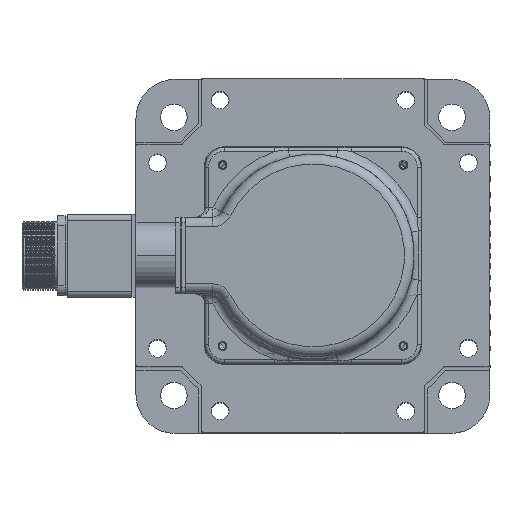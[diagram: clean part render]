
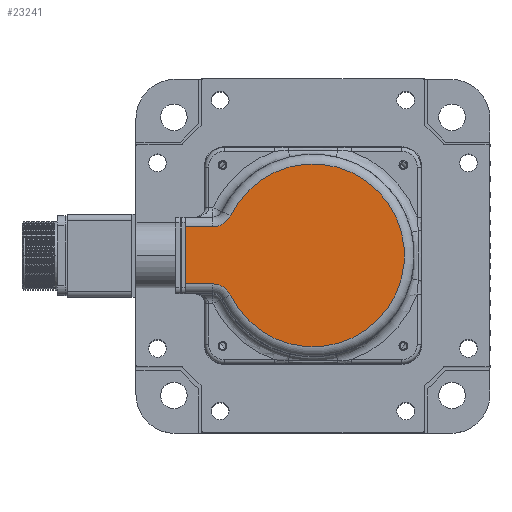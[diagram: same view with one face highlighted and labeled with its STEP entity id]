
A CAD part, top view. The second image highlights one B-rep face of the part: STEP entity #23241.
In plain terms, the highlighted planar face has unit normal (0, 0, 1).
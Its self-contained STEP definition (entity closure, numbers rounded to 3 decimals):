
#834 = LINE ( 'NONE', #5984, #4216 ) ;
#2327 = CARTESIAN_POINT ( 'NONE',  ( -50.912, -14.5, 388. ) ) ;
#3018 = EDGE_CURVE ( 'NONE', #17455, #20562, #10213, .T. ) ;
#3023 = VERTEX_POINT ( 'NONE', #19607 ) ;
#3192 = EDGE_CURVE ( 'NONE', #17455, #29053, #834, .T. ) ;
#3312 = ORIENTED_EDGE ( 'NONE', *, *, #22599, .F. ) ;
#3649 = DIRECTION ( 'NONE',  ( 0., 1., 0. ) ) ;
#4216 = VECTOR ( 'NONE', #3649, 1000. ) ;
#4549 = DIRECTION ( 'NONE',  ( 0., 0., 1. ) ) ;
#4757 = DIRECTION ( 'NONE',  ( 0., 0., 1. ) ) ;
#4846 = CIRCLE ( 'NONE', #17327, 10. ) ;
#5984 = CARTESIAN_POINT ( 'NONE',  ( -65., 0., 388. ) ) ;
#7030 = AXIS2_PLACEMENT_3D ( 'NONE', #11752, #4549, #21320 ) ;
#7648 = DIRECTION ( 'NONE',  ( -1., 0., 0. ) ) ;
#7663 = ORIENTED_EDGE ( 'NONE', *, *, #13303, .F. ) ;
#7867 = CARTESIAN_POINT ( 'NONE',  ( -47.666, -14.5, 388. ) ) ;
#8409 = DIRECTION ( 'NONE',  ( -1., 0., 0. ) ) ;
#9769 = DIRECTION ( 'NONE',  ( 1., 0., 0. ) ) ;
#10213 = LINE ( 'NONE', #7867, #25743 ) ;
#10633 = VECTOR ( 'NONE', #29775, 1000. ) ;
#11063 = CARTESIAN_POINT ( 'NONE',  ( -50.912, -24.5, 388. ) ) ;
#11298 = ORIENTED_EDGE ( 'NONE', *, *, #21615, .T. ) ;
#11554 = EDGE_LOOP ( 'NONE', ( #3312, #11298, #24031, #17347, #7663, #22291 ) ) ;
#11752 = CARTESIAN_POINT ( 'NONE',  ( 0., 0., 388. ) ) ;
#12104 = CARTESIAN_POINT ( 'NONE',  ( 0., 0., 388. ) ) ;
#12407 = EDGE_CURVE ( 'NONE', #19308, #16636, #19024, .T. ) ;
#13303 = EDGE_CURVE ( 'NONE', #19308, #20562, #22126, .T. ) ;
#14839 = AXIS2_PLACEMENT_3D ( 'NONE', #12104, #4757, #23873 ) ;
#16636 = VERTEX_POINT ( 'NONE', #23674 ) ;
#17327 = AXIS2_PLACEMENT_3D ( 'NONE', #27080, #21763, #7648 ) ;
#17347 = ORIENTED_EDGE ( 'NONE', *, *, #3018, .T. ) ;
#17427 = CARTESIAN_POINT ( 'NONE',  ( -41.901, -20.164, 388. ) ) ;
#17455 = VERTEX_POINT ( 'NONE', #27625 ) ;
#19024 = CIRCLE ( 'NONE', #7030, 46.5 ) ;
#19308 = VERTEX_POINT ( 'NONE', #17427 ) ;
#19607 = CARTESIAN_POINT ( 'NONE',  ( -50.912, 14.5, 388. ) ) ;
#20562 = VERTEX_POINT ( 'NONE', #2327 ) ;
#21320 = DIRECTION ( 'NONE',  ( -1., 0., 0. ) ) ;
#21374 = PLANE ( 'NONE',  #14839 ) ;
#21615 = EDGE_CURVE ( 'NONE', #3023, #29053, #24734, .T. ) ;
#21649 = AXIS2_PLACEMENT_3D ( 'NONE', #11063, #25648, #8409 ) ;
#21763 = DIRECTION ( 'NONE',  ( 0., 0., 1. ) ) ;
#22126 = CIRCLE ( 'NONE', #21649, 10. ) ;
#22291 = ORIENTED_EDGE ( 'NONE', *, *, #12407, .T. ) ;
#22599 = EDGE_CURVE ( 'NONE', #3023, #16636, #4846, .T. ) ;
#23241 = ADVANCED_FACE ( 'NONE', ( #25931 ), #21374, .T. ) ;
#23674 = CARTESIAN_POINT ( 'NONE',  ( -41.901, 20.164, 388. ) ) ;
#23873 = DIRECTION ( 'NONE',  ( -1., 0., 0. ) ) ;
#24031 = ORIENTED_EDGE ( 'NONE', *, *, #3192, .F. ) ;
#24734 = LINE ( 'NONE', #29940, #10633 ) ;
#25648 = DIRECTION ( 'NONE',  ( 0., 0., 1. ) ) ;
#25743 = VECTOR ( 'NONE', #9769, 1000. ) ;
#25931 = FACE_OUTER_BOUND ( 'NONE', #11554, .T. ) ;
#27080 = CARTESIAN_POINT ( 'NONE',  ( -50.912, 24.5, 388. ) ) ;
#27625 = CARTESIAN_POINT ( 'NONE',  ( -65., -14.5, 388. ) ) ;
#29053 = VERTEX_POINT ( 'NONE', #30695 ) ;
#29775 = DIRECTION ( 'NONE',  ( -1., 0., 0. ) ) ;
#29940 = CARTESIAN_POINT ( 'NONE',  ( 0., 14.5, 388. ) ) ;
#30695 = CARTESIAN_POINT ( 'NONE',  ( -65., 14.5, 388. ) ) ;
